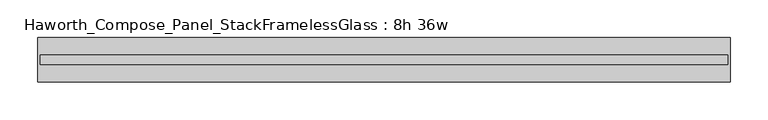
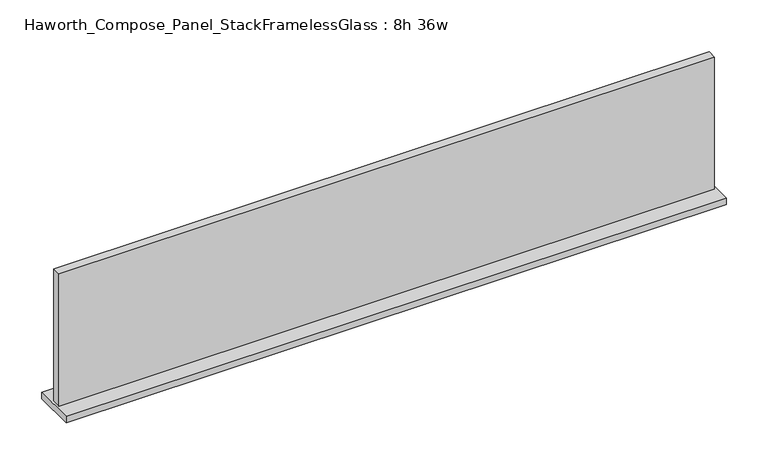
"""IFC4 building model written with IfcOpenShell, lengths in millimetres: furniture geometry, Haworth_Compose_Panel_StackFramelessGlass : 8h 36w."""

from ifc_helpers import new_model, si_unit, frame, origin, place, context, project, spatial, polyline, outline, extrude, source, transform, mapped, element, save


def haworth_compose_panel_stackframelessglass_8h_36w_6a189481(model_context):
    return source(origin(), model_context, "Body", "SweptSolid", [
        extrude(outline(polyline([(456.4652902, -27.3093594), (-451.5847098, -27.3093594), (-451.5847098, -14.6093594), (456.4652902, -14.6093594), (456.4652902, -27.3093594)])), frame((0.0, 0.0, 1076.325), z_axis=(0.0, 0.0, 1.0), x_axis=(1.0, 0.0, 0.0)), (0.0, 0.0, 1.0), 193.675),
        extrude(outline(polyline([(-454.7597098, -50.3281094), (-454.7597098, 8.4093906), (459.6402902, 8.4093906), (459.6402902, -50.3281094), (-454.7597098, -50.3281094)])), frame((0.0, 0.0, 1066.8), z_axis=(0.0, 0.0, 1.0), x_axis=(1.0, 0.0, 0.0)), (0.0, 0.0, 1.0), 9.525),
    ])


if __name__ == "__main__":
    model = new_model("IFC4")
    model_context = context("Model", 3, world=origin())
    ifc_project = project(units=[si_unit("LENGTHUNIT", "METRE", prefix="MILLI")], contexts=[model_context])
    site = spatial("IfcSite", under=ifc_project)
    building = spatial("IfcBuilding", under=site)
    placement = place(None, origin())
    haworth_compose_panel_stackframelessglass_8h_36w_shape = haworth_compose_panel_stackframelessglass_8h_36w_6a189481(model_context)
    element("IfcFurniture", 1, ObjectType="Haworth_Compose_Panel_StackFramelessGlass : 8h 36w", at=placement, inside=building, context=model_context, shape_type="MappedRepresentation", body=[
        mapped(haworth_compose_panel_stackframelessglass_8h_36w_shape, transform((0.0, 0.0, 0.0), x_axis=(1.0, 0.0, 0.0), y_axis=(0.0, 1.0, 0.0), z_axis=(0.0, 0.0, 1.0))),
    ])
    save(model, "model.ifc")
